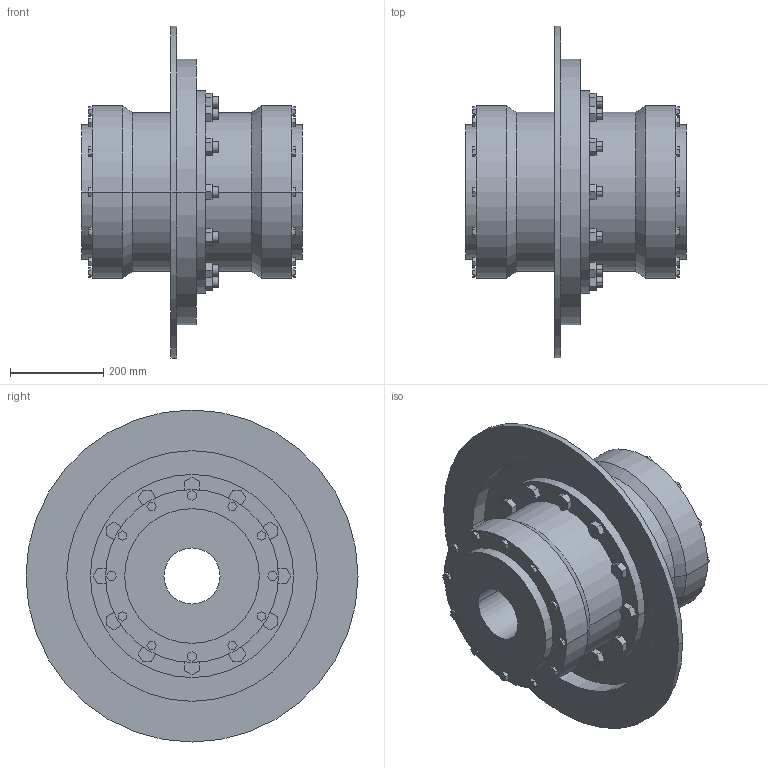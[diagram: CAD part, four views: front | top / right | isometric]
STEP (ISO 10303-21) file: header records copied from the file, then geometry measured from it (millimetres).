
FILE_DESCRIPTION((''),'2;1');
FILE_NAME('A19101800-0_ASM','2018-11-08T',('AB_Roschiwal'),('RENK AG'),'PRO/ENGINEER BY PARAMETRIC TECHNOLOGY CORPORATION, 2015440','PRO/ENGINEER BY PARAMETRIC TECHNOLOGY CORPORATION, 2015440','');
FILE_SCHEMA(('CONFIG_CONTROL_DESIGN'));
Length unit declared in the file: millimetre
Products named in the file (4): SBKD180_GEHAEUSE; SBKD180_NABE; SBKD180_BREMSSCHEIBE; A19101800-0_ASM
Assembly tree (4 placements, depth 2):
  A19101800-0_ASM
    SBKD180_GEHAEUSE
    SBKD180_NABE  x2
    SBKD180_BREMSSCHEIBE
Bounding box: 472 x 711 x 711 mm (x, y, z)
Volume: 43379348.8 mm3; surface area: 2925768.1 mm2
Topology: 4 solids, 4 shells, 470 faces, 1156 edges, 768 vertices
Faces by surface type: plane 370, cylinder 96, cone 4
Entity records: 13604 total; most frequent: CARTESIAN_POINT 2350, ORIENTED_EDGE 2264, DIRECTION 2240, EDGE_CURVE 1132, VECTOR 956, LINE 956, VERTEX_POINT 752, AXIS2_PLACEMENT_3D 642
